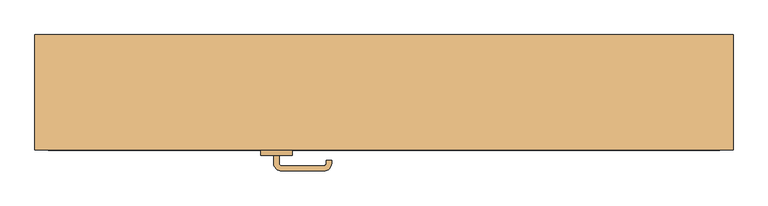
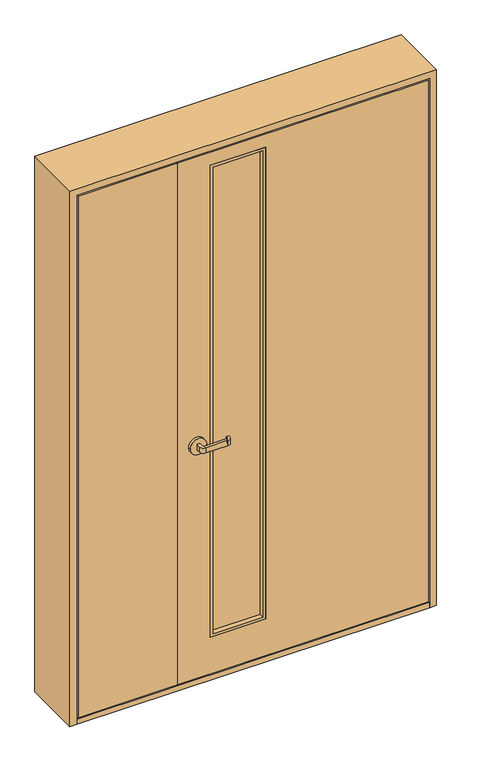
"""IFC4 building model written with IfcOpenShell, lengths in millimetres: door geometry, C_親子扉_スリット窓付_パネル : SD8_W1250XH2000."""

from ifc_helpers import new_model, si_unit, point, frame, frame_2d, origin, place, context, project, spatial, polyline, circle_curve, trimmed, segment, composite_curve, outline, extrude, faceted_brep, source, transform, mapped, element, save


def door_a8025d8c(model_context):
    return source(origin(), model_context, "Body", "SolidModel", [
        extrude(outline(polyline([(-275.0, -70.0), (-275.0, -110.0), (-635.0, -110.0), (-635.0, -70.0), (-275.0, -70.0)])), frame((0.0, 0.0, 10.0), z_axis=(0.0, 0.0, 1.0), x_axis=(1.0, 0.0, 0.0)), (0.0, 0.0, 1.0), 2000.0),
        extrude(outline(composite_curve([segment(polyline([(-210.0, -60.0), (-210.0, -45.0)]), True, "CONTINUOUS"), segment(trimmed(circle_curve(frame_2d((-195.0, -45.0)), 15.0), [point((-210.0, -45.0))], [point((-195.0, -30.0))], False, "CARTESIAN"), True, "CONTINUOUS"), segment(polyline([(-195.0, -30.0), (-115.0, -30.0)]), True, "CONTINUOUS"), segment(trimmed(circle_curve(frame_2d((-115.0, -45.0)), 15.0), [point((-115.0, -30.0))], [point((-100.0, -45.0))], False, "CARTESIAN"), True, "CONTINUOUS"), segment(polyline([(-100.0, -45.0), (-100.0, -50.0), (-110.0, -50.0), (-110.0, -45.0)]), True, "CONTINUOUS"), segment(trimmed(circle_curve(frame_2d((-115.0, -45.0)), 5.0), [point((-110.0, -45.0))], [point((-115.0, -40.0))], True, "CARTESIAN"), True, "CONTINUOUS"), segment(polyline([(-115.0, -40.0), (-195.0, -40.0)]), True, "CONTINUOUS"), segment(trimmed(circle_curve(frame_2d((-195.0, -45.0)), 5.0), [point((-195.0, -40.0))], [point((-200.0, -45.0))], True, "CARTESIAN"), True, "CONTINUOUS"), segment(polyline([(-200.0, -45.0), (-200.0, -60.0), (-210.0, -60.0)]), True, "CONTINUOUS")], self_intersect=False)), frame((0.0, 0.0, 895.0), z_axis=(0.0, 0.0, 1.0), x_axis=(1.0, 0.0, 0.0)), (0.0, 0.0, 1.0), 20.0),
        extrude(outline(composite_curve([segment(trimmed(circle_curve(frame_2d((905.0, -205.0)), 30.0), [point((905.0, -235.0))], [point((905.0, -175.0))], False, "CARTESIAN"), True, "CONTINUOUS"), segment(trimmed(circle_curve(frame_2d((905.0, -205.0)), 30.0), [point((905.0, -175.0))], [point((905.0, -235.0))], False, "CARTESIAN"), True, "CONTINUOUS")], self_intersect=False)), frame((0.0, -70.0, 0.0), z_axis=(0.0, 1.0, 0.0), x_axis=(0.0, 0.0, 1.0)), (0.0, 0.0, 1.0), 10.0),
        extrude(outline(composite_curve([segment(polyline([(-200.0, -120.0), (-200.0, -135.0)]), True, "CONTINUOUS"), segment(trimmed(circle_curve(frame_2d((-195.0, -135.0)), 5.0), [point((-200.0, -135.0))], [point((-195.0, -140.0))], True, "CARTESIAN"), True, "CONTINUOUS"), segment(polyline([(-195.0, -140.0), (-115.0, -140.0)]), True, "CONTINUOUS"), segment(trimmed(circle_curve(frame_2d((-115.0, -135.0)), 5.0), [point((-115.0, -140.0))], [point((-110.0, -135.0))], True, "CARTESIAN"), True, "CONTINUOUS"), segment(polyline([(-110.0, -135.0), (-110.0, -130.0), (-100.0, -130.0), (-100.0, -135.0)]), True, "CONTINUOUS"), segment(trimmed(circle_curve(frame_2d((-115.0, -135.0)), 15.0), [point((-100.0, -135.0))], [point((-115.0, -150.0))], False, "CARTESIAN"), True, "CONTINUOUS"), segment(polyline([(-115.0, -150.0), (-195.0, -150.0)]), True, "CONTINUOUS"), segment(trimmed(circle_curve(frame_2d((-195.0, -135.0)), 15.0), [point((-195.0, -150.0))], [point((-210.0, -135.0))], False, "CARTESIAN"), True, "CONTINUOUS"), segment(polyline([(-210.0, -135.0), (-210.0, -120.0), (-200.0, -120.0)]), True, "CONTINUOUS")], self_intersect=False)), frame((0.0, 0.0, 895.0), z_axis=(0.0, 0.0, 1.0), x_axis=(1.0, 0.0, 0.0)), (0.0, 0.0, 1.0), 20.0),
        extrude(outline(composite_curve([segment(trimmed(circle_curve(frame_2d((905.0, -205.0)), 30.0), [point((905.0, -235.0))], [point((905.0, -175.0))], False, "CARTESIAN"), True, "CONTINUOUS"), segment(trimmed(circle_curve(frame_2d((905.0, -205.0)), 30.0), [point((905.0, -175.0))], [point((905.0, -235.0))], False, "CARTESIAN"), True, "CONTINUOUS")], self_intersect=False)), frame((0.0, -120.0, 0.0), z_axis=(0.0, 1.0, 0.0), x_axis=(0.0, 0.0, 1.0)), (0.0, 0.0, 1.0), 10.0),
        extrude(outline(polyline([(35.0, -87.5), (35.0, -92.5), (-145.0, -92.5), (-145.0, -87.5), (35.0, -87.5)])), frame((0.0, 0.0, 160.0), z_axis=(0.0, 0.0, 1.0), x_axis=(1.0, 0.0, 0.0)), (0.0, 0.0, 1.0), 1790.0),
        extrude(outline(polyline([(150.0, 45.0), (1960.0, 45.0), (1960.0, -155.0), (150.0, -155.0), (150.0, 45.0)]), holes=[polyline([(160.0, 35.0), (160.0, -145.0), (1950.0, -145.0), (1950.0, 35.0), (160.0, 35.0)])]), frame((0.0, -110.0, 0.0), z_axis=(0.0, 1.0, 0.0), x_axis=(0.0, 0.0, 1.0)), (0.0, 0.0, 1.0), 40.0),
        extrude(outline(polyline([(10.0, 635.0), (2010.0, 635.0), (2010.0, -275.0), (10.0, -275.0), (10.0, 635.0)]), holes=[polyline([(150.0, 45.0), (150.0, -155.0), (1960.0, -155.0), (1960.0, 45.0), (150.0, 45.0)])]), frame((0.0, -110.0, 0.0), z_axis=(0.0, 1.0, 0.0), x_axis=(0.0, 0.0, 1.0)), (0.0, 0.0, 1.0), 40.0),
        faceted_brep([(-640.0, -110.0, -15.0), (-665.0, -110.0, -15.0), (-665.0, 110.0, -15.0), (-640.0, 110.0, -15.0), (-640.0, -40.0, -15.0), (-625.0, -40.0, -15.0), (-625.0, -70.0, -15.0), (-640.0, -70.0, -15.0), (-640.0, -70.0, 2015.0), (-640.0, -110.0, 2015.0), (-625.0, -70.0, 2000.0), (625.0, -70.0, 2000.0), (625.0, -70.0, -15.0), (640.0, -70.0, -15.0), (640.0, -70.0, 2015.0), (-625.0, -40.0, 2000.0), (-640.0, -40.0, 2015.0), (640.0, -40.0, 2015.0), (640.0, -40.0, -15.0), (625.0, -40.0, -15.0), (625.0, -40.0, 2000.0), (-640.0, 110.0, 2015.0), (-665.0, 110.0, 2040.0), (665.0, 110.0, 2040.0), (665.0, 110.0, -15.0), (640.0, 110.0, -15.0), (640.0, 110.0, 2015.0), (-665.0, -110.0, 2040.0), (640.0, -110.0, 2015.0), (640.0, -110.0, -15.0), (665.0, -110.0, -15.0), (665.0, -110.0, 2040.0)], [[[0, 1, 2, 3, 4, 5, 6, 7]], [[7, 8, 9, 0]], [[6, 10, 11, 12, 13, 14, 8, 7]], [[5, 15, 10, 6]], [[4, 16, 17, 18, 19, 20, 15, 5]], [[3, 21, 16, 4]], [[2, 22, 23, 24, 25, 26, 21, 3]], [[1, 27, 22, 2]], [[0, 9, 28, 29, 30, 31, 27, 1]], [[8, 14, 28, 9]], [[15, 20, 11, 10]], [[21, 26, 17, 16]], [[27, 31, 23, 22]], [[29, 13, 12, 19, 18, 25, 24, 30]], [[14, 13, 29, 28]], [[20, 19, 12, 11]], [[26, 25, 18, 17]], [[31, 30, 24, 23]]]),
        extrude(outline(polyline([(-110.0, 5.0), (-70.0, 5.0), (-70.0, 15.0), (-40.0, 15.0), (60.0, 5.0), (60.0, -15.0), (-110.0, -15.0), (-110.0, 5.0)])), frame((-640.0, 0.0, 0.0), z_axis=(1.0, 0.0, 0.0), x_axis=(0.0, 1.0, 0.0)), (0.0, 0.0, 1.0), 1280.0),
    ])


if __name__ == "__main__":
    model = new_model("IFC4")
    model_context = context("Model", 3, world=origin())
    ifc_project = project(units=[si_unit("LENGTHUNIT", "METRE", prefix="MILLI")], contexts=[model_context])
    site = spatial("IfcSite", under=ifc_project)
    building = spatial("IfcBuilding", under=site)
    placement = place(None, origin())
    door_shape = door_a8025d8c(model_context)
    element("IfcDoor", 1, ObjectType="C_親子扉_スリット窓付_パネル : SD8_W1250XH2000", at=placement, inside=building, context=model_context, shape_type="MappedRepresentation", body=[
        mapped(door_shape, transform((0.0, 0.0, 0.0), x_axis=(1.0, 0.0, 0.0), y_axis=(0.0, 1.0, 0.0), z_axis=(0.0, 0.0, 1.0))),
    ])
    save(model, "model.ifc")
